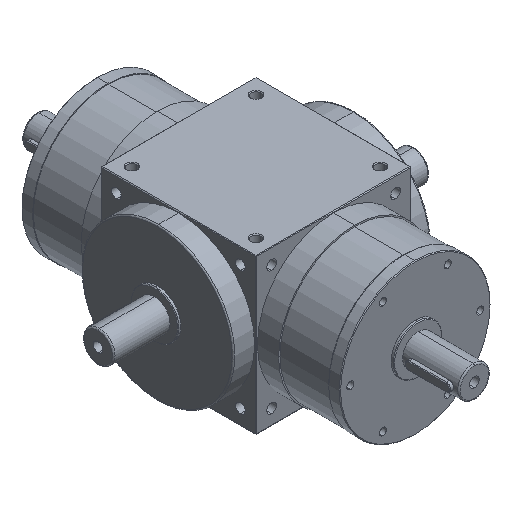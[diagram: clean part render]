
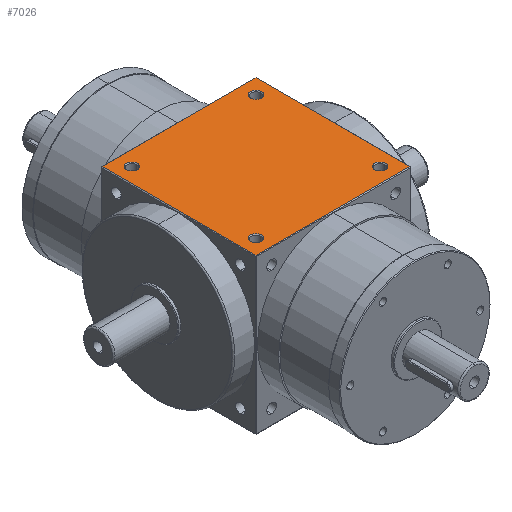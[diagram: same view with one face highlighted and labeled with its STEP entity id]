
A CAD part, isometric view. The second image highlights one B-rep face of the part: STEP entity #7026.
In plain terms, the highlighted planar face has unit normal (0, 0, 1).
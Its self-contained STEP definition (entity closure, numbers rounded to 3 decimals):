
#145 = EDGE_CURVE ( 'NONE', #11065, #6171, #5279, .T. ) ;
#257 = AXIS2_PLACEMENT_3D ( 'NONE', #12966, #6023, #14151 ) ;
#263 = CARTESIAN_POINT ( 'NONE',  ( 44., -40.1, 55. ) ) ;
#333 = VERTEX_POINT ( 'NONE', #9915 ) ;
#359 = ORIENTED_EDGE ( 'NONE', *, *, #1272, .F. ) ;
#829 = AXIS2_PLACEMENT_3D ( 'NONE', #9095, #2220, #10271 ) ;
#993 = CARTESIAN_POINT ( 'NONE',  ( -44., 47.9, 55. ) ) ;
#1020 = CARTESIAN_POINT ( 'NONE',  ( -44., 40.1, 55. ) ) ;
#1064 = DIRECTION ( 'NONE',  ( 0., -1., 0. ) ) ;
#1272 = EDGE_CURVE ( 'NONE', #11414, #11340, #7772, .T. ) ;
#1574 = DIRECTION ( 'NONE',  ( 1., 0., 0. ) ) ;
#1589 = DIRECTION ( 'NONE',  ( 0., 0., 1. ) ) ;
#1640 = CARTESIAN_POINT ( 'NONE',  ( 44., 44., 55. ) ) ;
#1726 = CIRCLE ( 'NONE', #829, 3.9 ) ;
#1729 = CARTESIAN_POINT ( 'NONE',  ( 44., -47.9, 55. ) ) ;
#1897 = DIRECTION ( 'NONE',  ( 0., 0., 1. ) ) ;
#1954 = ORIENTED_EDGE ( 'NONE', *, *, #2773, .F. ) ;
#2220 = DIRECTION ( 'NONE',  ( 0., 0., 1. ) ) ;
#2277 = DIRECTION ( 'NONE',  ( 0., 0., 1. ) ) ;
#2432 = CARTESIAN_POINT ( 'NONE',  ( 0., 54.5, 55. ) ) ;
#2502 = DIRECTION ( 'NONE',  ( 0., 0., 1. ) ) ;
#2547 = ORIENTED_EDGE ( 'NONE', *, *, #145, .F. ) ;
#2773 = EDGE_CURVE ( 'NONE', #10893, #4815, #8577, .T. ) ;
#2792 = DIRECTION ( 'NONE',  ( 0., 1., 0. ) ) ;
#2831 = CIRCLE ( 'NONE', #7362, 3.9 ) ;
#3033 = FACE_BOUND ( 'NONE', #13472, .T. ) ;
#3111 = ORIENTED_EDGE ( 'NONE', *, *, #5849, .F. ) ;
#3175 = DIRECTION ( 'NONE',  ( -1., 0., 0. ) ) ;
#3215 = CIRCLE ( 'NONE', #4415, 3.9 ) ;
#3318 = CARTESIAN_POINT ( 'NONE',  ( -44., 44., 55. ) ) ;
#3457 = CIRCLE ( 'NONE', #8160, 3.9 ) ;
#4174 = ORIENTED_EDGE ( 'NONE', *, *, #13714, .F. ) ;
#4415 = AXIS2_PLACEMENT_3D ( 'NONE', #9386, #2502, #10546 ) ;
#4767 = CIRCLE ( 'NONE', #6550, 3.9 ) ;
#4815 = VERTEX_POINT ( 'NONE', #5385 ) ;
#4969 = AXIS2_PLACEMENT_3D ( 'NONE', #12630, #12595, #12572 ) ;
#4992 = AXIS2_PLACEMENT_3D ( 'NONE', #3318, #9901, #1064 ) ;
#5022 = VECTOR ( 'NONE', #3175, 1000. ) ;
#5023 = CARTESIAN_POINT ( 'NONE',  ( 40.1, 44., 55. ) ) ;
#5279 = CIRCLE ( 'NONE', #4992, 3.9 ) ;
#5318 = EDGE_CURVE ( 'NONE', #6171, #11065, #3457, .T. ) ;
#5385 = CARTESIAN_POINT ( 'NONE',  ( -44., -40.1, 55. ) ) ;
#5401 = EDGE_CURVE ( 'NONE', #6088, #7570, #12601, .T. ) ;
#5849 = EDGE_CURVE ( 'NONE', #7999, #8485, #1726, .T. ) ;
#6023 = DIRECTION ( 'NONE',  ( 0., 0., -1. ) ) ;
#6088 = VERTEX_POINT ( 'NONE', #14651 ) ;
#6171 = VERTEX_POINT ( 'NONE', #993 ) ;
#6526 = CARTESIAN_POINT ( 'NONE',  ( -44., -44., 55. ) ) ;
#6550 = AXIS2_PLACEMENT_3D ( 'NONE', #6526, #14638, #7673 ) ;
#6714 = EDGE_CURVE ( 'NONE', #333, #7819, #8099, .T. ) ;
#7026 = ADVANCED_FACE ( 'NONE', ( #3033, #10796, #13529, #7726, #7356 ), #14097, .F. ) ;
#7356 = FACE_OUTER_BOUND ( 'NONE', #8460, .T. ) ;
#7362 = AXIS2_PLACEMENT_3D ( 'NONE', #8780, #1897, #9964 ) ;
#7434 = DIRECTION ( 'NONE',  ( 0., -1., 0. ) ) ;
#7570 = VERTEX_POINT ( 'NONE', #10990 ) ;
#7673 = DIRECTION ( 'NONE',  ( 0., -1., 0. ) ) ;
#7726 = FACE_BOUND ( 'NONE', #14829, .T. ) ;
#7769 = LINE ( 'NONE', #10856, #10848 ) ;
#7772 = CIRCLE ( 'NONE', #13843, 3.9 ) ;
#7819 = VERTEX_POINT ( 'NONE', #10366 ) ;
#7999 = VERTEX_POINT ( 'NONE', #263 ) ;
#8099 = LINE ( 'NONE', #11270, #5022 ) ;
#8160 = AXIS2_PLACEMENT_3D ( 'NONE', #9167, #2277, #10343 ) ;
#8424 = EDGE_CURVE ( 'NONE', #7819, #7570, #7769, .T. ) ;
#8460 = EDGE_LOOP ( 'NONE', ( #11827, #9602, #14641, #12906 ) ) ;
#8485 = VERTEX_POINT ( 'NONE', #1729 ) ;
#8577 = CIRCLE ( 'NONE', #4969, 3.9 ) ;
#8780 = CARTESIAN_POINT ( 'NONE',  ( 44., 44., 55. ) ) ;
#8919 = VECTOR ( 'NONE', #7434, 1000. ) ;
#9095 = CARTESIAN_POINT ( 'NONE',  ( 44., -44., 55. ) ) ;
#9167 = CARTESIAN_POINT ( 'NONE',  ( -44., 44., 55. ) ) ;
#9386 = CARTESIAN_POINT ( 'NONE',  ( 44., -44., 55. ) ) ;
#9500 = VECTOR ( 'NONE', #14003, 1000. ) ;
#9602 = ORIENTED_EDGE ( 'NONE', *, *, #14947, .F. ) ;
#9798 = EDGE_CURVE ( 'NONE', #4815, #10893, #4767, .T. ) ;
#9901 = DIRECTION ( 'NONE',  ( 0., 0., 1. ) ) ;
#9915 = CARTESIAN_POINT ( 'NONE',  ( 54.5, -54.5, 55. ) ) ;
#9964 = DIRECTION ( 'NONE',  ( 1., 0., 0. ) ) ;
#10033 = ORIENTED_EDGE ( 'NONE', *, *, #5318, .F. ) ;
#10271 = DIRECTION ( 'NONE',  ( 0., -1., 0. ) ) ;
#10272 = ORIENTED_EDGE ( 'NONE', *, *, #9798, .F. ) ;
#10343 = DIRECTION ( 'NONE',  ( 0., -1., 0. ) ) ;
#10366 = CARTESIAN_POINT ( 'NONE',  ( -54.5, -54.5, 55. ) ) ;
#10546 = DIRECTION ( 'NONE',  ( 0., -1., 0. ) ) ;
#10707 = ORIENTED_EDGE ( 'NONE', *, *, #11885, .F. ) ;
#10796 = FACE_BOUND ( 'NONE', #13318, .T. ) ;
#10848 = VECTOR ( 'NONE', #2792, 1000. ) ;
#10856 = CARTESIAN_POINT ( 'NONE',  ( -54.5, 0., 55. ) ) ;
#10893 = VERTEX_POINT ( 'NONE', #12159 ) ;
#10990 = CARTESIAN_POINT ( 'NONE',  ( -54.5, 54.5, 55. ) ) ;
#11065 = VERTEX_POINT ( 'NONE', #1020 ) ;
#11270 = CARTESIAN_POINT ( 'NONE',  ( 0., -54.5, 55. ) ) ;
#11340 = VERTEX_POINT ( 'NONE', #14155 ) ;
#11414 = VERTEX_POINT ( 'NONE', #5023 ) ;
#11827 = ORIENTED_EDGE ( 'NONE', *, *, #6714, .F. ) ;
#11885 = EDGE_CURVE ( 'NONE', #11340, #11414, #2831, .T. ) ;
#12007 = LINE ( 'NONE', #14407, #8919 ) ;
#12159 = CARTESIAN_POINT ( 'NONE',  ( -44., -47.9, 55. ) ) ;
#12572 = DIRECTION ( 'NONE',  ( 0., -1., 0. ) ) ;
#12595 = DIRECTION ( 'NONE',  ( 0., 0., 1. ) ) ;
#12601 = LINE ( 'NONE', #2432, #9500 ) ;
#12630 = CARTESIAN_POINT ( 'NONE',  ( -44., -44., 55. ) ) ;
#12906 = ORIENTED_EDGE ( 'NONE', *, *, #8424, .F. ) ;
#12966 = CARTESIAN_POINT ( 'NONE',  ( 0., 0., 55. ) ) ;
#13318 = EDGE_LOOP ( 'NONE', ( #10707, #359 ) ) ;
#13472 = EDGE_LOOP ( 'NONE', ( #2547, #10033 ) ) ;
#13529 = FACE_BOUND ( 'NONE', #14845, .T. ) ;
#13714 = EDGE_CURVE ( 'NONE', #8485, #7999, #3215, .T. ) ;
#13843 = AXIS2_PLACEMENT_3D ( 'NONE', #1640, #1589, #1574 ) ;
#14003 = DIRECTION ( 'NONE',  ( -1., 0., 0. ) ) ;
#14097 = PLANE ( 'NONE',  #257 ) ;
#14151 = DIRECTION ( 'NONE',  ( -1., 0., 0. ) ) ;
#14155 = CARTESIAN_POINT ( 'NONE',  ( 47.9, 44., 55. ) ) ;
#14407 = CARTESIAN_POINT ( 'NONE',  ( 54.5, 0., 55. ) ) ;
#14638 = DIRECTION ( 'NONE',  ( 0., 0., 1. ) ) ;
#14641 = ORIENTED_EDGE ( 'NONE', *, *, #5401, .T. ) ;
#14651 = CARTESIAN_POINT ( 'NONE',  ( 54.5, 54.5, 55. ) ) ;
#14829 = EDGE_LOOP ( 'NONE', ( #4174, #3111 ) ) ;
#14845 = EDGE_LOOP ( 'NONE', ( #1954, #10272 ) ) ;
#14947 = EDGE_CURVE ( 'NONE', #6088, #333, #12007, .T. ) ;
